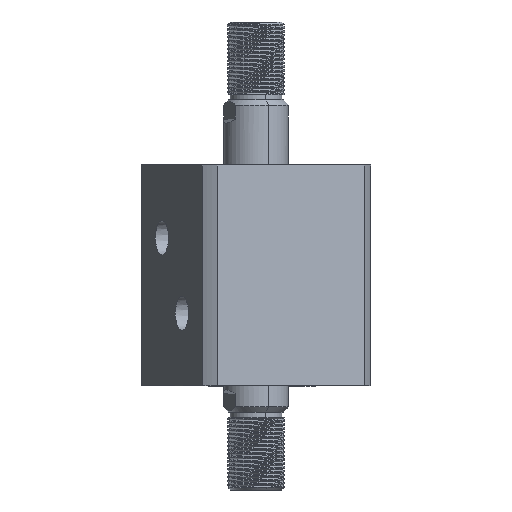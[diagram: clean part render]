
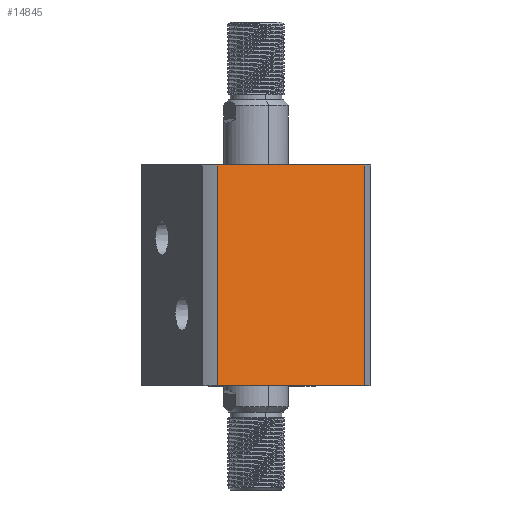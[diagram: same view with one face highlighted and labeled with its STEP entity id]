
A CAD part, front view. The second image highlights one B-rep face of the part: STEP entity #14845.
In plain terms, the highlighted planar face has unit normal (0.383, -0.924, 0) as drawn and (1, 0, 0) by its records, which use the part's own axes.
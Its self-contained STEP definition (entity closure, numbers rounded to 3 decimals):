
#223 = CARTESIAN_POINT ( 'NONE',  ( 35., -30.615, -215. ) ) ;
#574 = CARTESIAN_POINT ( 'NONE',  ( 35., -30.615, 85. ) ) ;
#1182 = EDGE_CURVE ( 'NONE', #7702, #16763, #16782, .T. ) ;
#1501 = AXIS2_PLACEMENT_3D ( 'NONE', #8759, #11641, #3586 ) ;
#2255 = CARTESIAN_POINT ( 'NONE',  ( 35., 35., 0. ) ) ;
#2911 = DIRECTION ( 'NONE',  ( 0., 0., 1. ) ) ;
#3153 = VECTOR ( 'NONE', #14407, 1000. ) ;
#3359 = EDGE_CURVE ( 'NONE', #16614, #7702, #10631, .T. ) ;
#3586 = DIRECTION ( 'NONE',  ( 0., -1., 0. ) ) ;
#4684 = LINE ( 'NONE', #16199, #11431 ) ;
#5816 = CARTESIAN_POINT ( 'NONE',  ( 35., 30.615, 85. ) ) ;
#7217 = LINE ( 'NONE', #2255, #3153 ) ;
#7355 = EDGE_CURVE ( 'NONE', #16763, #10845, #4684, .T. ) ;
#7638 = PLANE ( 'NONE',  #1501 ) ;
#7702 = VERTEX_POINT ( 'NONE', #574 ) ;
#7916 = EDGE_LOOP ( 'NONE', ( #11342, #9677, #11471, #17033 ) ) ;
#8749 = FACE_OUTER_BOUND ( 'NONE', #7916, .T. ) ;
#8759 = CARTESIAN_POINT ( 'NONE',  ( 35., 35., 85. ) ) ;
#9677 = ORIENTED_EDGE ( 'NONE', *, *, #12295, .T. ) ;
#10631 = LINE ( 'NONE', #223, #17390 ) ;
#10845 = VERTEX_POINT ( 'NONE', #15813 ) ;
#11163 = DIRECTION ( 'NONE',  ( 0., 1., 0. ) ) ;
#11342 = ORIENTED_EDGE ( 'NONE', *, *, #3359, .F. ) ;
#11431 = VECTOR ( 'NONE', #13221, 1000. ) ;
#11471 = ORIENTED_EDGE ( 'NONE', *, *, #7355, .F. ) ;
#11634 = CARTESIAN_POINT ( 'NONE',  ( 35., 35., 85. ) ) ;
#11641 = DIRECTION ( 'NONE',  ( -1., 0., 0. ) ) ;
#12295 = EDGE_CURVE ( 'NONE', #16614, #10845, #7217, .T. ) ;
#13150 = VECTOR ( 'NONE', #11163, 1000. ) ;
#13221 = DIRECTION ( 'NONE',  ( 0., 0., -1. ) ) ;
#14407 = DIRECTION ( 'NONE',  ( 0., 1., 0. ) ) ;
#14845 = ADVANCED_FACE ( 'NONE', ( #8749 ), #7638, .F. ) ;
#15813 = CARTESIAN_POINT ( 'NONE',  ( 35., 30.615, 0. ) ) ;
#16199 = CARTESIAN_POINT ( 'NONE',  ( 35., 30.615, -215. ) ) ;
#16213 = CARTESIAN_POINT ( 'NONE',  ( 35., -30.615, 0. ) ) ;
#16614 = VERTEX_POINT ( 'NONE', #16213 ) ;
#16763 = VERTEX_POINT ( 'NONE', #5816 ) ;
#16782 = LINE ( 'NONE', #11634, #13150 ) ;
#17033 = ORIENTED_EDGE ( 'NONE', *, *, #1182, .F. ) ;
#17390 = VECTOR ( 'NONE', #2911, 1000. ) ;
